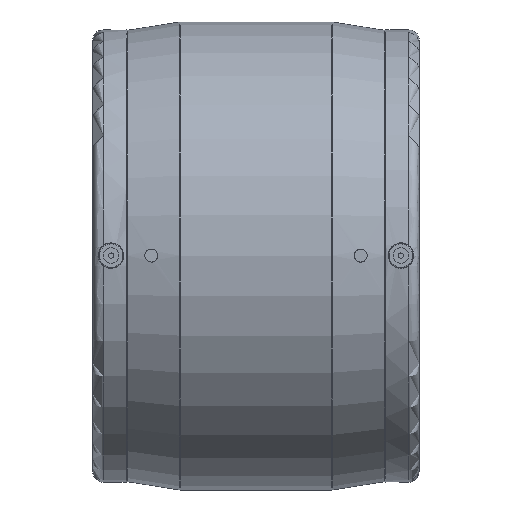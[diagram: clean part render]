
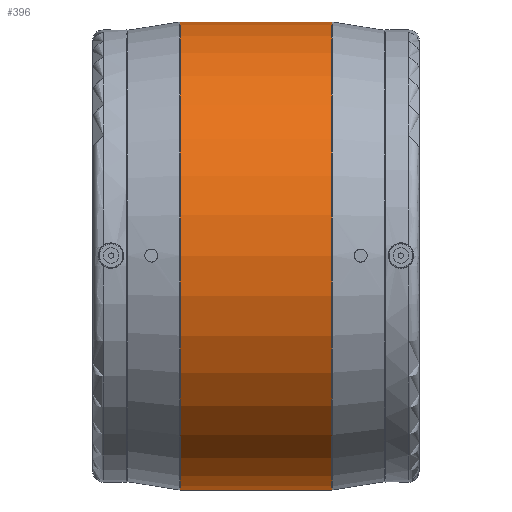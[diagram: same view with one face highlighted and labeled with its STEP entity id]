
A CAD part, top view. The second image highlights one B-rep face of the part: STEP entity #396.
In plain terms, the highlighted cylindrical face has radius 180 mm (diameter 360 mm), a full revolution.
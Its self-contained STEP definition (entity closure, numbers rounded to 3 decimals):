
#39=CYLINDRICAL_SURFACE('',#455,180.);
#76=ORIENTED_EDGE('',*,*,#150,.T.);
#77=ORIENTED_EDGE('',*,*,#151,.T.);
#150=EDGE_CURVE('',#188,#188,#220,.F.);
#151=EDGE_CURVE('',#189,#189,#221,.T.);
#188=VERTEX_POINT('',#733);
#189=VERTEX_POINT('',#735);
#220=CIRCLE('',#456,180.);
#221=CIRCLE('',#457,180.);
#259=EDGE_LOOP('',(#76));
#260=EDGE_LOOP('',(#77));
#327=FACE_BOUND('',#259,.T.);
#328=FACE_BOUND('',#260,.T.);
#396=ADVANCED_FACE('',(#327,#328),#39,.T.);
#455=AXIS2_PLACEMENT_3D('',#731,#543,#544);
#456=AXIS2_PLACEMENT_3D('',#732,#545,#546);
#457=AXIS2_PLACEMENT_3D('',#734,#547,#548);
#543=DIRECTION('',(-1.,0.,0.));
#544=DIRECTION('',(0.,0.,1.));
#545=DIRECTION('',(1.,0.,0.));
#546=DIRECTION('',(0.,0.,-1.));
#547=DIRECTION('',(1.,0.,0.));
#548=DIRECTION('',(0.,0.,-1.));
#731=CARTESIAN_POINT('',(-60.,0.,0.));
#732=CARTESIAN_POINT('',(58.421,0.,0.));
#733=CARTESIAN_POINT('',(58.421,0.,-180.));
#734=CARTESIAN_POINT('',(-58.421,0.,0.));
#735=CARTESIAN_POINT('',(-58.421,0.,-180.));
